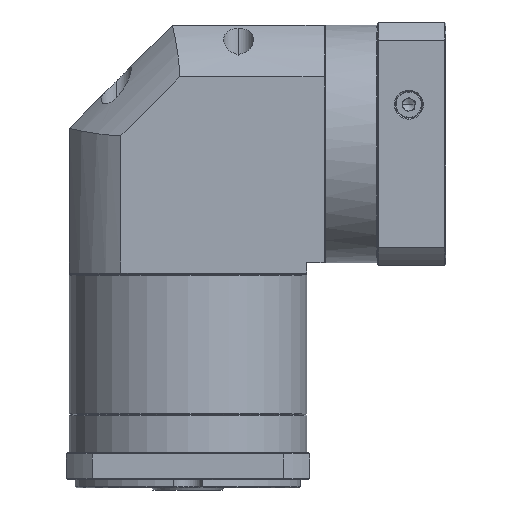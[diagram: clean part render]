
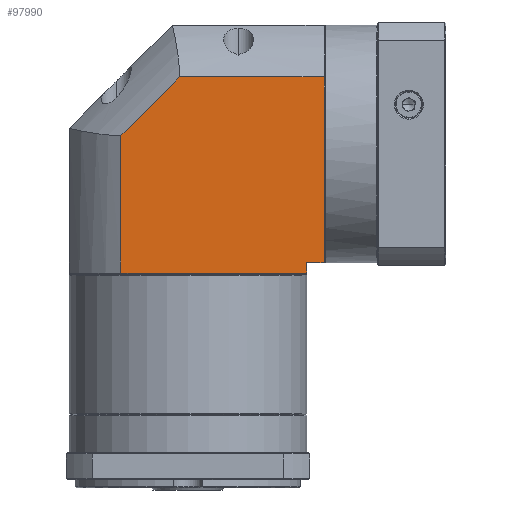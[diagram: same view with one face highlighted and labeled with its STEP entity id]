
A CAD part, front view. The second image highlights one B-rep face of the part: STEP entity #97990.
In plain terms, the highlighted planar face has unit normal (0, -1, 0).
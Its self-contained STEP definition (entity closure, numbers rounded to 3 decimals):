
#5195 = VECTOR ( 'NONE', #116622, 1000. ) ;
#12663 = DIRECTION ( 'NONE',  ( -1., 0., 0. ) ) ;
#21619 = CARTESIAN_POINT ( 'NONE',  ( 115.632, 4.458, 35.112 ) ) ;
#21661 = PLANE ( 'NONE',  #38252 ) ;
#22502 = EDGE_CURVE ( 'NONE', #100677, #91570, #25674, .T. ) ;
#24778 = CARTESIAN_POINT ( 'NONE',  ( 107.232, 4.458, -54.788 ) ) ;
#25674 = LINE ( 'NONE', #117925, #103283 ) ;
#28091 = ORIENTED_EDGE ( 'NONE', *, *, #39441, .F. ) ;
#28223 = LINE ( 'NONE', #60435, #48470 ) ;
#29547 = EDGE_CURVE ( 'NONE', #70484, #95988, #111196, .T. ) ;
#29899 = CARTESIAN_POINT ( 'NONE',  ( 45.67, 4.458, 35.112 ) ) ;
#30765 = EDGE_CURVE ( 'NONE', #60207, #65895, #61138, .T. ) ;
#32015 = VECTOR ( 'NONE', #76924, 1000. ) ;
#38149 = CARTESIAN_POINT ( 'NONE',  ( -7.768, 4.458, 35.112 ) ) ;
#38245 = EDGE_LOOP ( 'NONE', ( #28091, #60660, #124692, #63349, #124047, #89320, #66749 ) ) ;
#38252 = AXIS2_PLACEMENT_3D ( 'NONE', #120930, #91075, #61582 ) ;
#39441 = EDGE_CURVE ( 'NONE', #91570, #70484, #99363, .T. ) ;
#39608 = CARTESIAN_POINT ( 'NONE',  ( 115.632, 4.458, -54.788 ) ) ;
#40304 = CARTESIAN_POINT ( 'NONE',  ( 17.332, 4.458, 6.774 ) ) ;
#48470 = VECTOR ( 'NONE', #70334, 1000. ) ;
#50411 = CARTESIAN_POINT ( 'NONE',  ( 107.232, 4.458, -59.788 ) ) ;
#50694 = VECTOR ( 'NONE', #12663, 1000. ) ;
#59070 = VECTOR ( 'NONE', #68765, 1000. ) ;
#60207 = VERTEX_POINT ( 'NONE', #29899 ) ;
#60435 = CARTESIAN_POINT ( 'NONE',  ( 115.632, 4.458, -66.288 ) ) ;
#60660 = ORIENTED_EDGE ( 'NONE', *, *, #22502, .F. ) ;
#61138 = LINE ( 'NONE', #38149, #5195 ) ;
#61582 = DIRECTION ( 'NONE',  ( 1., 0., 0. ) ) ;
#63349 = ORIENTED_EDGE ( 'NONE', *, *, #30765, .F. ) ;
#65728 = VERTEX_POINT ( 'NONE', #40304 ) ;
#65895 = VERTEX_POINT ( 'NONE', #21619 ) ;
#66749 = ORIENTED_EDGE ( 'NONE', *, *, #29547, .F. ) ;
#68765 = DIRECTION ( 'NONE',  ( 0., 0., -1. ) ) ;
#70334 = DIRECTION ( 'NONE',  ( 0., 0., -1. ) ) ;
#70484 = VERTEX_POINT ( 'NONE', #50411 ) ;
#73643 = DIRECTION ( 'NONE',  ( 0.707, 0., 0.707 ) ) ;
#76496 = CARTESIAN_POINT ( 'NONE',  ( 17.332, 4.458, -66.288 ) ) ;
#76924 = DIRECTION ( 'NONE',  ( 0., 0., 1. ) ) ;
#82541 = EDGE_CURVE ( 'NONE', #65895, #100677, #28223, .T. ) ;
#83231 = CARTESIAN_POINT ( 'NONE',  ( 17.332, 4.458, 6.774 ) ) ;
#84826 = LINE ( 'NONE', #76496, #32015 ) ;
#87885 = CARTESIAN_POINT ( 'NONE',  ( 17.332, 4.458, -59.788 ) ) ;
#89320 = ORIENTED_EDGE ( 'NONE', *, *, #104447, .F. ) ;
#91075 = DIRECTION ( 'NONE',  ( 0., 1., 0. ) ) ;
#91153 = VECTOR ( 'NONE', #73643, 1000. ) ;
#91570 = VERTEX_POINT ( 'NONE', #24778 ) ;
#95988 = VERTEX_POINT ( 'NONE', #87885 ) ;
#97990 = ADVANCED_FACE ( 'NONE', ( #118598 ), #21661, .F. ) ;
#99363 = LINE ( 'NONE', #118169, #59070 ) ;
#100457 = LINE ( 'NONE', #83231, #91153 ) ;
#100677 = VERTEX_POINT ( 'NONE', #39608 ) ;
#101410 = DIRECTION ( 'NONE',  ( -1., 0., 0. ) ) ;
#103283 = VECTOR ( 'NONE', #101410, 1000. ) ;
#103792 = EDGE_CURVE ( 'NONE', #65728, #60207, #100457, .T. ) ;
#104447 = EDGE_CURVE ( 'NONE', #95988, #65728, #84826, .T. ) ;
#110693 = CARTESIAN_POINT ( 'NONE',  ( -7.768, 4.458, -59.788 ) ) ;
#111196 = LINE ( 'NONE', #110693, #50694 ) ;
#116622 = DIRECTION ( 'NONE',  ( 1., 0., 0. ) ) ;
#117925 = CARTESIAN_POINT ( 'NONE',  ( -7.768, 4.458, -54.788 ) ) ;
#118169 = CARTESIAN_POINT ( 'NONE',  ( 107.232, 4.458, -66.288 ) ) ;
#118598 = FACE_OUTER_BOUND ( 'NONE', #38245, .T. ) ;
#120930 = CARTESIAN_POINT ( 'NONE',  ( -7.768, 4.458, -66.288 ) ) ;
#124047 = ORIENTED_EDGE ( 'NONE', *, *, #103792, .F. ) ;
#124692 = ORIENTED_EDGE ( 'NONE', *, *, #82541, .F. ) ;
